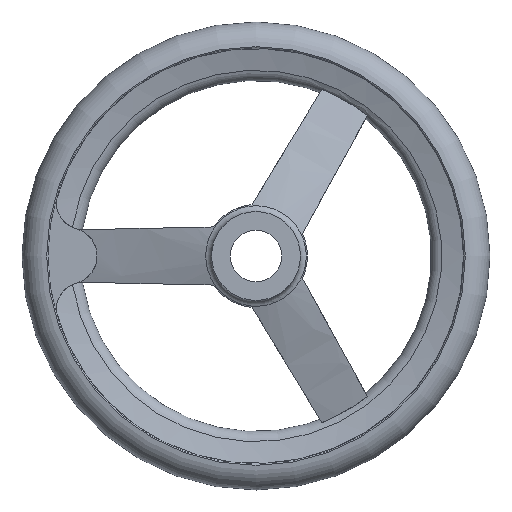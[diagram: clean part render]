
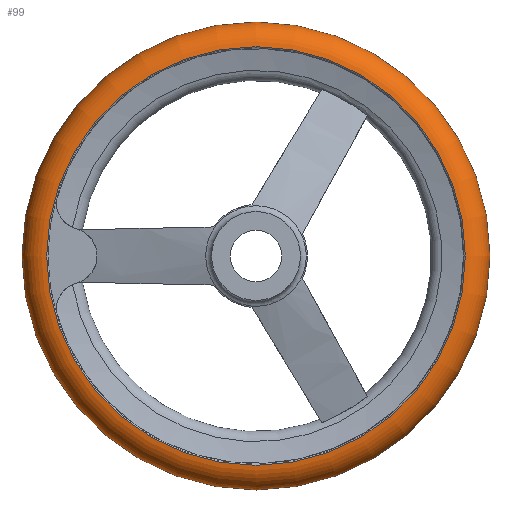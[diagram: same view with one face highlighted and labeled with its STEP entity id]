
A CAD part, left-side view. The second image highlights one B-rep face of the part: STEP entity #99.
In plain terms, the highlighted toroidal (fillet/blend) face has major radius 88.99 mm and minor radius 11.01 mm.
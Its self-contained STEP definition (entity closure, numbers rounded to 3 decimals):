
#99 = ADVANCED_FACE( '', ( #178, #179, #180 ), #181, .T. );
#178 = FACE_BOUND( '', #281, .T. );
#179 = FACE_OUTER_BOUND( '', #282, .T. );
#180 = FACE_OUTER_BOUND( '', #283, .T. );
#181 = TOROIDAL_SURFACE( '', #284, 88.99, 11.01 );
#281 = VERTEX_LOOP( '', #514 );
#282 = EDGE_LOOP( '', ( #515 ) );
#283 = EDGE_LOOP( '', ( #516 ) );
#284 = AXIS2_PLACEMENT_3D( '', #517, #518, #519 );
#514 = VERTEX_POINT( '', #744 );
#515 = ORIENTED_EDGE( '', *, *, #745, .T. );
#516 = ORIENTED_EDGE( '', *, *, #743, .F. );
#517 = CARTESIAN_POINT( '', ( 34., 0., 0. ) );
#518 = DIRECTION( '', ( -1., 0., 0. ) );
#519 = DIRECTION( '', ( 0., -1., 0. ) );
#743 = EDGE_CURVE( '', #914, #914, #915, .T. );
#744 = CARTESIAN_POINT( '', ( 34., -100., 0. ) );
#745 = EDGE_CURVE( '', #916, #916, #917, .T. );
#914 = VERTEX_POINT( '', #1548 );
#915 = CIRCLE( '', #1549, 89.458 );
#916 = VERTEX_POINT( '', #1550 );
#917 = CIRCLE( '', #1551, 89.458 );
#1548 = CARTESIAN_POINT( '', ( 23., -89.458, 0. ) );
#1549 = AXIS2_PLACEMENT_3D( '', #1732, #1733, #1734 );
#1550 = CARTESIAN_POINT( '', ( 45., -89.458, 0. ) );
#1551 = AXIS2_PLACEMENT_3D( '', #1735, #1736, #1737 );
#1732 = CARTESIAN_POINT( '', ( 23., 0., 0. ) );
#1733 = DIRECTION( '', ( -1., 0., 0. ) );
#1734 = DIRECTION( '', ( 0., -1., 0. ) );
#1735 = CARTESIAN_POINT( '', ( 45., 0., 0. ) );
#1736 = DIRECTION( '', ( -1., 0., 0. ) );
#1737 = DIRECTION( '', ( 0., -1., 0. ) );
